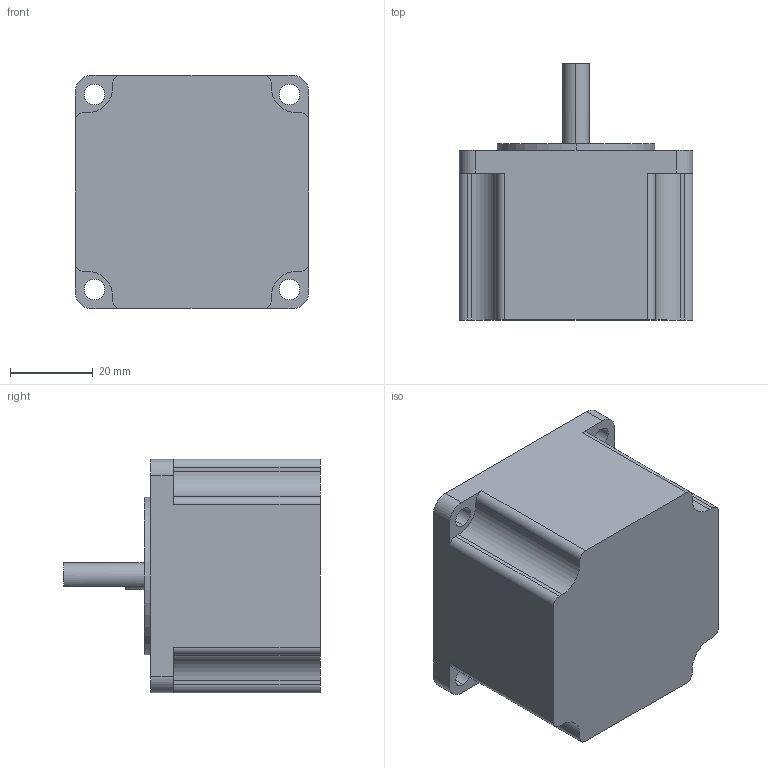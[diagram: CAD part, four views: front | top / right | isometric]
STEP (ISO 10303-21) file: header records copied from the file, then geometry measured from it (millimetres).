
FILE_DESCRIPTION (( 'STEP AP203' ), '1' );
FILE_NAME ('2S57Q-0541.STEP', '2015-05-05T03:45:05', ( 'IT毞諾' ), ( 'iTianKong.com' ), 'SwSTEP 2.0', 'SolidWorks 2008', '' );
FILE_SCHEMA (( 'CONFIG_CONTROL_DESIGN' ));
Length unit declared in the file: millimetre
Products named in the file (1): 2S57Q-0541
Bounding box: 56.4 x 62 x 56.4 mm (x, y, z)
Volume: 121681.6 mm3; surface area: 15700.5 mm2
Topology: 1 solids, 1 shells, 50 faces, 138 edges, 92 vertices
Faces by surface type: cylinder 28, plane 22
Entity records: 1713 total; most frequent: DIRECTION 298, CARTESIAN_POINT 281, ORIENTED_EDGE 276, EDGE_CURVE 138, AXIS2_PLACEMENT_3D 109, VERTEX_POINT 92, LINE 80, VECTOR 80
